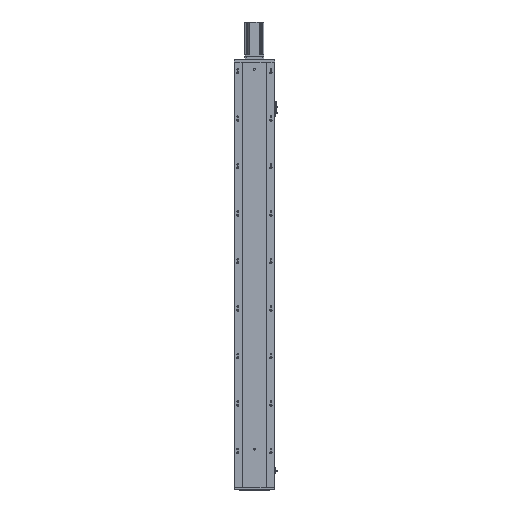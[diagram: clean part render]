
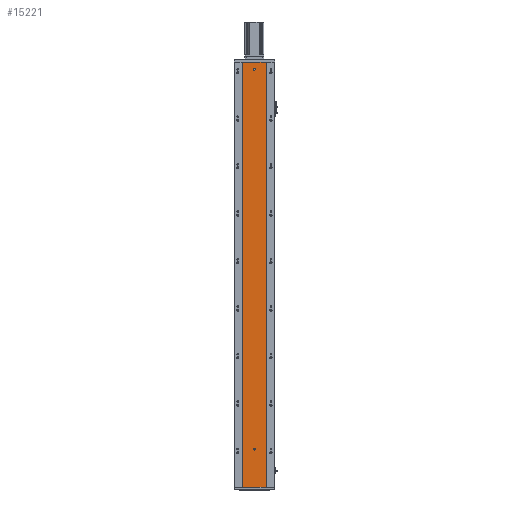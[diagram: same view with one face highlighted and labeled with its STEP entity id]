
A CAD part, front view. The second image highlights one B-rep face of the part: STEP entity #15221.
In plain terms, the highlighted planar face has unit normal (0, -1, 0).
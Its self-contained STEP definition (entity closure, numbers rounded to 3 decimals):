
#9289 = EDGE_LOOP ( 'NONE', ( #11235, #11245 ) ) ;
#9437 = EDGE_LOOP ( 'NONE', ( #11247, #9955, #9995, #9986 ) ) ;
#9660 = EDGE_LOOP ( 'NONE', ( #11257, #9983 ) ) ;
#9955 = ORIENTED_EDGE ( 'NONE', *, *, #12047, .F. ) ;
#9983 = ORIENTED_EDGE ( 'NONE', *, *, #45551, .F. ) ;
#9986 = ORIENTED_EDGE ( 'NONE', *, *, #12077, .T. ) ;
#9995 = ORIENTED_EDGE ( 'NONE', *, *, #12041, .F. ) ;
#11235 = ORIENTED_EDGE ( 'NONE', *, *, #12044, .F. ) ;
#11245 = ORIENTED_EDGE ( 'NONE', *, *, #45390, .F. ) ;
#11247 = ORIENTED_EDGE ( 'NONE', *, *, #12060, .T. ) ;
#11257 = ORIENTED_EDGE ( 'NONE', *, *, #12091, .F. ) ;
#12041 = EDGE_CURVE ( 'NONE', #39345, #39369, #33402, .T. ) ;
#12044 = EDGE_CURVE ( 'NONE', #21945, #21866, #33294, .T. ) ;
#12047 = EDGE_CURVE ( 'NONE', #39369, #39388, #38549, .T. ) ;
#12060 = EDGE_CURVE ( 'NONE', #39341, #39388, #33503, .T. ) ;
#12077 = EDGE_CURVE ( 'NONE', #39345, #39341, #38540, .T. ) ;
#12091 = EDGE_CURVE ( 'NONE', #21860, #21869, #33642, .T. ) ;
#15221 = ADVANCED_FACE ( 'NONE', ( #26130, #26168, #26172 ), #29958, .F. ) ;
#17089 = DIRECTION ( 'NONE',  ( 1., 0., 0. ) ) ;
#17090 = CARTESIAN_POINT ( 'NONE',  ( 185.97, 79.476, 1790. ) ) ;
#17091 = DIRECTION ( 'NONE',  ( 0., 0., -1. ) ) ;
#17098 = CARTESIAN_POINT ( 'NONE',  ( 185.97, 79.476, 0. ) ) ;
#17101 = CARTESIAN_POINT ( 'NONE',  ( 185.97, 79.476, 596.667 ) ) ;
#17103 = CARTESIAN_POINT ( 'NONE',  ( 185.97, 79.476, 1193.333 ) ) ;
#17106 = CARTESIAN_POINT ( 'NONE',  ( 0., 79.476, 1790. ) ) ;
#17116 = CARTESIAN_POINT ( 'NONE',  ( 136.47, 79.476, 160. ) ) ;
#17117 = DIRECTION ( 'NONE',  ( 0., -1., 0. ) ) ;
#17119 = DIRECTION ( 'NONE',  ( 1., 0., 0. ) ) ;
#17120 = CARTESIAN_POINT ( 'NONE',  ( 0., 79.476, 0. ) ) ;
#17162 = CARTESIAN_POINT ( 'NONE',  ( 86.97, 79.476, 596.667 ) ) ;
#17164 = CARTESIAN_POINT ( 'NONE',  ( 86.97, 79.476, 1790. ) ) ;
#17171 = DIRECTION ( 'NONE',  ( 0., -1., 0. ) ) ;
#17172 = DIRECTION ( 'NONE',  ( 0., 0., -1. ) ) ;
#17177 = CARTESIAN_POINT ( 'NONE',  ( 136.47, 79.476, 1760. ) ) ;
#17181 = CARTESIAN_POINT ( 'NONE',  ( 86.97, 79.476, 0. ) ) ;
#17185 = CARTESIAN_POINT ( 'NONE',  ( 86.97, 79.476, 1193.333 ) ) ;
#21860 = VERTEX_POINT ( 'NONE', #43840 ) ;
#21866 = VERTEX_POINT ( 'NONE', #43907 ) ;
#21869 = VERTEX_POINT ( 'NONE', #43889 ) ;
#21945 = VERTEX_POINT ( 'NONE', #44003 ) ;
#26130 = FACE_BOUND ( 'NONE', #9660, .T. ) ;
#26168 = FACE_BOUND ( 'NONE', #9289, .T. ) ;
#26172 = FACE_OUTER_BOUND ( 'NONE', #9437, .T. ) ;
#29838 = CIRCLE ( 'NONE', #53273, 4. ) ;
#29902 = DIRECTION ( 'NONE',  ( 0., 1., 0. ) ) ;
#29938 = DIRECTION ( 'NONE',  ( 0., 0., 1. ) ) ;
#29958 = PLANE ( 'NONE',  #42964 ) ;
#29983 = CARTESIAN_POINT ( 'NONE',  ( 0., 79.476, 1790. ) ) ;
#30084 = CIRCLE ( 'NONE', #53310, 4. ) ;
#32538 = DIRECTION ( 'NONE',  ( 0., -1., 0. ) ) ;
#32558 = CARTESIAN_POINT ( 'NONE',  ( 136.47, 79.476, 160. ) ) ;
#32611 = DIRECTION ( 'NONE',  ( 0., 0., -1. ) ) ;
#33038 = DIRECTION ( 'NONE',  ( 0., -1., 0. ) ) ;
#33043 = DIRECTION ( 'NONE',  ( 0., 0., -1. ) ) ;
#33072 = CARTESIAN_POINT ( 'NONE',  ( 136.47, 79.476, 1760. ) ) ;
#33294 = CIRCLE ( 'NONE', #41121, 4. ) ;
#33402 = LINE ( 'NONE', #17106, #33406 ) ;
#33406 = VECTOR ( 'NONE', #17119, 1000. ) ;
#33459 = VECTOR ( 'NONE', #17089, 1000. ) ;
#33503 = LINE ( 'NONE', #17120, #33459 ) ;
#33642 = CIRCLE ( 'NONE', #41147, 4. ) ;
#38540 = B_SPLINE_CURVE_WITH_KNOTS ( 'NONE', 3,
 ( #17164, #17185, #17162, #17181 ),
 .UNSPECIFIED., .F., .F.,
 ( 4, 4 ),
 ( 0., 1. ),
 .UNSPECIFIED. ) ;
#38549 = B_SPLINE_CURVE_WITH_KNOTS ( 'NONE', 3,
 ( #17090, #17103, #17101, #17098 ),
 .UNSPECIFIED., .F., .F.,
 ( 4, 4 ),
 ( 0., 1. ),
 .UNSPECIFIED. ) ;
#39341 = VERTEX_POINT ( 'NONE', #45790 ) ;
#39345 = VERTEX_POINT ( 'NONE', #45738 ) ;
#39369 = VERTEX_POINT ( 'NONE', #45841 ) ;
#39388 = VERTEX_POINT ( 'NONE', #45869 ) ;
#41121 = AXIS2_PLACEMENT_3D ( 'NONE', #17116, #17117, #17091 ) ;
#41147 = AXIS2_PLACEMENT_3D ( 'NONE', #17177, #17171, #17172 ) ;
#42964 = AXIS2_PLACEMENT_3D ( 'NONE', #29983, #29902, #29938 ) ;
#43840 = CARTESIAN_POINT ( 'NONE',  ( 136.47, 79.476, 1756. ) ) ;
#43889 = CARTESIAN_POINT ( 'NONE',  ( 136.47, 79.476, 1764. ) ) ;
#43907 = CARTESIAN_POINT ( 'NONE',  ( 136.47, 79.476, 164. ) ) ;
#44003 = CARTESIAN_POINT ( 'NONE',  ( 136.47, 79.476, 156. ) ) ;
#45390 = EDGE_CURVE ( 'NONE', #21866, #21945, #29838, .T. ) ;
#45551 = EDGE_CURVE ( 'NONE', #21869, #21860, #30084, .T. ) ;
#45738 = CARTESIAN_POINT ( 'NONE',  ( 86.97, 79.476, 1790. ) ) ;
#45790 = CARTESIAN_POINT ( 'NONE',  ( 86.97, 79.476, 0. ) ) ;
#45841 = CARTESIAN_POINT ( 'NONE',  ( 185.97, 79.476, 1790. ) ) ;
#45869 = CARTESIAN_POINT ( 'NONE',  ( 185.97, 79.476, 0. ) ) ;
#53273 = AXIS2_PLACEMENT_3D ( 'NONE', #32558, #32538, #32611 ) ;
#53310 = AXIS2_PLACEMENT_3D ( 'NONE', #33072, #33038, #33043 ) ;
